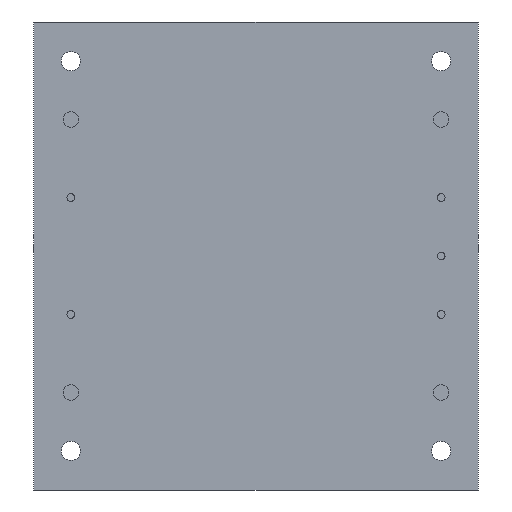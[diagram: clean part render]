
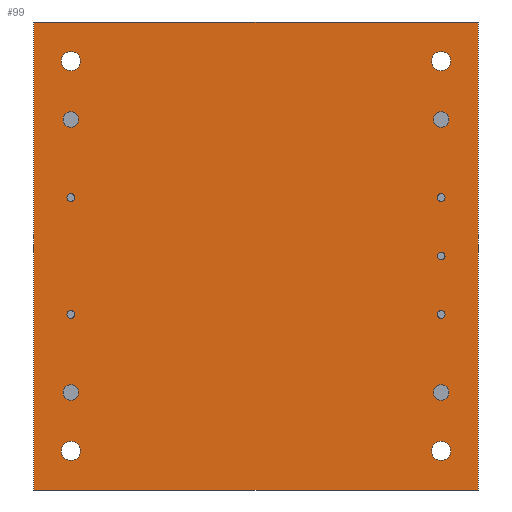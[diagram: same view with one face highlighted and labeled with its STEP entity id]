
A CAD part, front view. The second image highlights one B-rep face of the part: STEP entity #99.
In plain terms, the highlighted planar face has unit normal (0, -1, 0).
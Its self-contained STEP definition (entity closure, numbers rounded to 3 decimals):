
#72 = VERTEX_POINT('',#73);
#73 = CARTESIAN_POINT('',(-24.125,0.,-7.11));
#78 = EDGE_CURVE('',#72,#79,#81,.T.);
#79 = VERTEX_POINT('',#80);
#80 = CARTESIAN_POINT('',(-24.125,0.,-8.13));
#81 = CIRCLE('',#82,0.51);
#82 = AXIS2_PLACEMENT_3D('',#83,#84,#85);
#83 = CARTESIAN_POINT('',(-24.125,0.,-7.62));
#84 = DIRECTION('',(0.,-1.,0.));
#85 = DIRECTION('',(0.,0.,1.));
#87 = EDGE_CURVE('',#79,#72,#88,.T.);
#88 = CIRCLE('',#89,0.51);
#89 = AXIS2_PLACEMENT_3D('',#90,#91,#92);
#90 = CARTESIAN_POINT('',(-24.125,0.,-7.62));
#91 = DIRECTION('',(0.,-1.,0.));
#92 = DIRECTION('',(0.,0.,1.));
#99 = ADVANCED_FACE('',(#100,#120,#140,#160,#180,#200,#220,#240,#260,
    #294,#314,#334,#354,#358),#378,.F.);
#100 = FACE_BOUND('',#101,.T.);
#101 = EDGE_LOOP('',(#102,#113));
#102 = ORIENTED_EDGE('',*,*,#103,.F.);
#103 = EDGE_CURVE('',#104,#106,#108,.T.);
#104 = VERTEX_POINT('',#105);
#105 = CARTESIAN_POINT('',(-24.125,0.,-26.65));
#106 = VERTEX_POINT('',#107);
#107 = CARTESIAN_POINT('',(-24.125,0.,-24.15));
#108 = CIRCLE('',#109,1.25);
#109 = AXIS2_PLACEMENT_3D('',#110,#111,#112);
#110 = CARTESIAN_POINT('',(-24.125,0.,-25.4));
#111 = DIRECTION('',(0.,-1.,0.));
#112 = DIRECTION('',(0.,0.,-1.));
#113 = ORIENTED_EDGE('',*,*,#114,.F.);
#114 = EDGE_CURVE('',#106,#104,#115,.T.);
#115 = CIRCLE('',#116,1.25);
#116 = AXIS2_PLACEMENT_3D('',#117,#118,#119);
#117 = CARTESIAN_POINT('',(-24.125,0.,-25.4));
#118 = DIRECTION('',(0.,-1.,0.));
#119 = DIRECTION('',(0.,0.,-1.));
#120 = FACE_BOUND('',#121,.T.);
#121 = EDGE_LOOP('',(#122,#133));
#122 = ORIENTED_EDGE('',*,*,#123,.F.);
#123 = EDGE_CURVE('',#124,#126,#128,.T.);
#124 = VERTEX_POINT('',#125);
#125 = CARTESIAN_POINT('',(-24.125,0.,24.15));
#126 = VERTEX_POINT('',#127);
#127 = CARTESIAN_POINT('',(-24.125,0.,26.65));
#128 = CIRCLE('',#129,1.25);
#129 = AXIS2_PLACEMENT_3D('',#130,#131,#132);
#130 = CARTESIAN_POINT('',(-24.125,0.,25.4));
#131 = DIRECTION('',(0.,-1.,0.));
#132 = DIRECTION('',(0.,0.,-1.));
#133 = ORIENTED_EDGE('',*,*,#134,.F.);
#134 = EDGE_CURVE('',#126,#124,#135,.T.);
#135 = CIRCLE('',#136,1.25);
#136 = AXIS2_PLACEMENT_3D('',#137,#138,#139);
#137 = CARTESIAN_POINT('',(-24.125,0.,25.4));
#138 = DIRECTION('',(0.,-1.,0.));
#139 = DIRECTION('',(0.,0.,-1.));
#140 = FACE_BOUND('',#141,.T.);
#141 = EDGE_LOOP('',(#142,#153));
#142 = ORIENTED_EDGE('',*,*,#143,.F.);
#143 = EDGE_CURVE('',#144,#146,#148,.T.);
#144 = VERTEX_POINT('',#145);
#145 = CARTESIAN_POINT('',(24.125,0.,24.15));
#146 = VERTEX_POINT('',#147);
#147 = CARTESIAN_POINT('',(24.125,0.,26.65));
#148 = CIRCLE('',#149,1.25);
#149 = AXIS2_PLACEMENT_3D('',#150,#151,#152);
#150 = CARTESIAN_POINT('',(24.125,0.,25.4));
#151 = DIRECTION('',(0.,-1.,0.));
#152 = DIRECTION('',(0.,0.,-1.));
#153 = ORIENTED_EDGE('',*,*,#154,.F.);
#154 = EDGE_CURVE('',#146,#144,#155,.T.);
#155 = CIRCLE('',#156,1.25);
#156 = AXIS2_PLACEMENT_3D('',#157,#158,#159);
#157 = CARTESIAN_POINT('',(24.125,0.,25.4));
#158 = DIRECTION('',(0.,-1.,0.));
#159 = DIRECTION('',(0.,0.,-1.));
#160 = FACE_BOUND('',#161,.T.);
#161 = EDGE_LOOP('',(#162,#173));
#162 = ORIENTED_EDGE('',*,*,#163,.F.);
#163 = EDGE_CURVE('',#164,#166,#168,.T.);
#164 = VERTEX_POINT('',#165);
#165 = CARTESIAN_POINT('',(24.125,0.,-26.65));
#166 = VERTEX_POINT('',#167);
#167 = CARTESIAN_POINT('',(24.125,0.,-24.15));
#168 = CIRCLE('',#169,1.25);
#169 = AXIS2_PLACEMENT_3D('',#170,#171,#172);
#170 = CARTESIAN_POINT('',(24.125,0.,-25.4));
#171 = DIRECTION('',(0.,-1.,0.));
#172 = DIRECTION('',(0.,0.,-1.));
#173 = ORIENTED_EDGE('',*,*,#174,.F.);
#174 = EDGE_CURVE('',#166,#164,#175,.T.);
#175 = CIRCLE('',#176,1.25);
#176 = AXIS2_PLACEMENT_3D('',#177,#178,#179);
#177 = CARTESIAN_POINT('',(24.125,0.,-25.4));
#178 = DIRECTION('',(0.,-1.,0.));
#179 = DIRECTION('',(0.,0.,-1.));
#180 = FACE_BOUND('',#181,.T.);
#181 = EDGE_LOOP('',(#182,#193));
#182 = ORIENTED_EDGE('',*,*,#183,.F.);
#183 = EDGE_CURVE('',#184,#186,#188,.T.);
#184 = VERTEX_POINT('',#185);
#185 = CARTESIAN_POINT('',(-24.125,0.,18.795));
#186 = VERTEX_POINT('',#187);
#187 = CARTESIAN_POINT('',(-24.125,0.,16.765));
#188 = CIRCLE('',#189,1.015);
#189 = AXIS2_PLACEMENT_3D('',#190,#191,#192);
#190 = CARTESIAN_POINT('',(-24.125,0.,17.78));
#191 = DIRECTION('',(0.,-1.,0.));
#192 = DIRECTION('',(0.,0.,1.));
#193 = ORIENTED_EDGE('',*,*,#194,.F.);
#194 = EDGE_CURVE('',#186,#184,#195,.T.);
#195 = CIRCLE('',#196,1.015);
#196 = AXIS2_PLACEMENT_3D('',#197,#198,#199);
#197 = CARTESIAN_POINT('',(-24.125,0.,17.78));
#198 = DIRECTION('',(0.,-1.,0.));
#199 = DIRECTION('',(0.,0.,1.));
#200 = FACE_BOUND('',#201,.T.);
#201 = EDGE_LOOP('',(#202,#213));
#202 = ORIENTED_EDGE('',*,*,#203,.F.);
#203 = EDGE_CURVE('',#204,#206,#208,.T.);
#204 = VERTEX_POINT('',#205);
#205 = CARTESIAN_POINT('',(-24.125,0.,-16.765));
#206 = VERTEX_POINT('',#207);
#207 = CARTESIAN_POINT('',(-24.125,0.,-18.795));
#208 = CIRCLE('',#209,1.015);
#209 = AXIS2_PLACEMENT_3D('',#210,#211,#212);
#210 = CARTESIAN_POINT('',(-24.125,0.,-17.78));
#211 = DIRECTION('',(0.,-1.,0.));
#212 = DIRECTION('',(0.,0.,1.));
#213 = ORIENTED_EDGE('',*,*,#214,.F.);
#214 = EDGE_CURVE('',#206,#204,#215,.T.);
#215 = CIRCLE('',#216,1.015);
#216 = AXIS2_PLACEMENT_3D('',#217,#218,#219);
#217 = CARTESIAN_POINT('',(-24.125,0.,-17.78));
#218 = DIRECTION('',(0.,-1.,0.));
#219 = DIRECTION('',(0.,0.,1.));
#220 = FACE_BOUND('',#221,.T.);
#221 = EDGE_LOOP('',(#222,#233));
#222 = ORIENTED_EDGE('',*,*,#223,.F.);
#223 = EDGE_CURVE('',#224,#226,#228,.T.);
#224 = VERTEX_POINT('',#225);
#225 = CARTESIAN_POINT('',(24.125,0.,-7.11));
#226 = VERTEX_POINT('',#227);
#227 = CARTESIAN_POINT('',(24.125,0.,-8.13));
#228 = CIRCLE('',#229,0.51);
#229 = AXIS2_PLACEMENT_3D('',#230,#231,#232);
#230 = CARTESIAN_POINT('',(24.125,0.,-7.62));
#231 = DIRECTION('',(0.,-1.,0.));
#232 = DIRECTION('',(0.,0.,1.));
#233 = ORIENTED_EDGE('',*,*,#234,.F.);
#234 = EDGE_CURVE('',#226,#224,#235,.T.);
#235 = CIRCLE('',#236,0.51);
#236 = AXIS2_PLACEMENT_3D('',#237,#238,#239);
#237 = CARTESIAN_POINT('',(24.125,0.,-7.62));
#238 = DIRECTION('',(0.,-1.,0.));
#239 = DIRECTION('',(0.,0.,1.));
#240 = FACE_BOUND('',#241,.T.);
#241 = EDGE_LOOP('',(#242,#253));
#242 = ORIENTED_EDGE('',*,*,#243,.F.);
#243 = EDGE_CURVE('',#244,#246,#248,.T.);
#244 = VERTEX_POINT('',#245);
#245 = CARTESIAN_POINT('',(24.125,0.,8.13));
#246 = VERTEX_POINT('',#247);
#247 = CARTESIAN_POINT('',(24.125,0.,7.11));
#248 = CIRCLE('',#249,0.51);
#249 = AXIS2_PLACEMENT_3D('',#250,#251,#252);
#250 = CARTESIAN_POINT('',(24.125,0.,7.62));
#251 = DIRECTION('',(0.,-1.,0.));
#252 = DIRECTION('',(0.,0.,1.));
#253 = ORIENTED_EDGE('',*,*,#254,.F.);
#254 = EDGE_CURVE('',#246,#244,#255,.T.);
#255 = CIRCLE('',#256,0.51);
#256 = AXIS2_PLACEMENT_3D('',#257,#258,#259);
#257 = CARTESIAN_POINT('',(24.125,0.,7.62));
#258 = DIRECTION('',(0.,-1.,0.));
#259 = DIRECTION('',(0.,0.,1.));
#260 = FACE_BOUND('',#261,.T.);
#261 = EDGE_LOOP('',(#262,#272,#280,#288));
#262 = ORIENTED_EDGE('',*,*,#263,.F.);
#263 = EDGE_CURVE('',#264,#266,#268,.T.);
#264 = VERTEX_POINT('',#265);
#265 = CARTESIAN_POINT('',(-28.95,0.,-30.5));
#266 = VERTEX_POINT('',#267);
#267 = CARTESIAN_POINT('',(-28.95,0.,30.5));
#268 = LINE('',#269,#270);
#269 = CARTESIAN_POINT('',(-28.95,0.,-30.5));
#270 = VECTOR('',#271,1.);
#271 = DIRECTION('',(0.,0.,1.));
#272 = ORIENTED_EDGE('',*,*,#273,.F.);
#273 = EDGE_CURVE('',#274,#264,#276,.T.);
#274 = VERTEX_POINT('',#275);
#275 = CARTESIAN_POINT('',(28.95,0.,-30.5));
#276 = LINE('',#277,#278);
#277 = CARTESIAN_POINT('',(-28.95,0.,-30.5));
#278 = VECTOR('',#279,1.);
#279 = DIRECTION('',(-1.,-0.,-0.));
#280 = ORIENTED_EDGE('',*,*,#281,.F.);
#281 = EDGE_CURVE('',#282,#274,#284,.T.);
#282 = VERTEX_POINT('',#283);
#283 = CARTESIAN_POINT('',(28.95,0.,30.5));
#284 = LINE('',#285,#286);
#285 = CARTESIAN_POINT('',(28.95,0.,-30.5));
#286 = VECTOR('',#287,1.);
#287 = DIRECTION('',(0.,-0.,-1.));
#288 = ORIENTED_EDGE('',*,*,#289,.F.);
#289 = EDGE_CURVE('',#266,#282,#290,.T.);
#290 = LINE('',#291,#292);
#291 = CARTESIAN_POINT('',(-28.95,0.,30.5));
#292 = VECTOR('',#293,1.);
#293 = DIRECTION('',(1.,0.,0.));
#294 = FACE_BOUND('',#295,.T.);
#295 = EDGE_LOOP('',(#296,#307));
#296 = ORIENTED_EDGE('',*,*,#297,.F.);
#297 = EDGE_CURVE('',#298,#300,#302,.T.);
#298 = VERTEX_POINT('',#299);
#299 = CARTESIAN_POINT('',(24.125,0.,0.51));
#300 = VERTEX_POINT('',#301);
#301 = CARTESIAN_POINT('',(24.125,0.,-0.51));
#302 = CIRCLE('',#303,0.51);
#303 = AXIS2_PLACEMENT_3D('',#304,#305,#306);
#304 = CARTESIAN_POINT('',(24.125,0.,0.));
#305 = DIRECTION('',(0.,-1.,0.));
#306 = DIRECTION('',(0.,0.,1.));
#307 = ORIENTED_EDGE('',*,*,#308,.F.);
#308 = EDGE_CURVE('',#300,#298,#309,.T.);
#309 = CIRCLE('',#310,0.51);
#310 = AXIS2_PLACEMENT_3D('',#311,#312,#313);
#311 = CARTESIAN_POINT('',(24.125,0.,0.));
#312 = DIRECTION('',(0.,-1.,0.));
#313 = DIRECTION('',(0.,0.,1.));
#314 = FACE_BOUND('',#315,.T.);
#315 = EDGE_LOOP('',(#316,#327));
#316 = ORIENTED_EDGE('',*,*,#317,.F.);
#317 = EDGE_CURVE('',#318,#320,#322,.T.);
#318 = VERTEX_POINT('',#319);
#319 = CARTESIAN_POINT('',(24.125,0.,18.795));
#320 = VERTEX_POINT('',#321);
#321 = CARTESIAN_POINT('',(24.125,0.,16.765));
#322 = CIRCLE('',#323,1.015);
#323 = AXIS2_PLACEMENT_3D('',#324,#325,#326);
#324 = CARTESIAN_POINT('',(24.125,0.,17.78));
#325 = DIRECTION('',(0.,-1.,0.));
#326 = DIRECTION('',(0.,0.,1.));
#327 = ORIENTED_EDGE('',*,*,#328,.F.);
#328 = EDGE_CURVE('',#320,#318,#329,.T.);
#329 = CIRCLE('',#330,1.015);
#330 = AXIS2_PLACEMENT_3D('',#331,#332,#333);
#331 = CARTESIAN_POINT('',(24.125,0.,17.78));
#332 = DIRECTION('',(0.,-1.,0.));
#333 = DIRECTION('',(0.,0.,1.));
#334 = FACE_BOUND('',#335,.T.);
#335 = EDGE_LOOP('',(#336,#347));
#336 = ORIENTED_EDGE('',*,*,#337,.F.);
#337 = EDGE_CURVE('',#338,#340,#342,.T.);
#338 = VERTEX_POINT('',#339);
#339 = CARTESIAN_POINT('',(24.125,0.,-16.765));
#340 = VERTEX_POINT('',#341);
#341 = CARTESIAN_POINT('',(24.125,0.,-18.795));
#342 = CIRCLE('',#343,1.015);
#343 = AXIS2_PLACEMENT_3D('',#344,#345,#346);
#344 = CARTESIAN_POINT('',(24.125,0.,-17.78));
#345 = DIRECTION('',(0.,-1.,0.));
#346 = DIRECTION('',(0.,0.,1.));
#347 = ORIENTED_EDGE('',*,*,#348,.F.);
#348 = EDGE_CURVE('',#340,#338,#349,.T.);
#349 = CIRCLE('',#350,1.015);
#350 = AXIS2_PLACEMENT_3D('',#351,#352,#353);
#351 = CARTESIAN_POINT('',(24.125,0.,-17.78));
#352 = DIRECTION('',(0.,-1.,0.));
#353 = DIRECTION('',(0.,0.,1.));
#354 = FACE_BOUND('',#355,.T.);
#355 = EDGE_LOOP('',(#356,#357));
#356 = ORIENTED_EDGE('',*,*,#78,.F.);
#357 = ORIENTED_EDGE('',*,*,#87,.F.);
#358 = FACE_BOUND('',#359,.T.);
#359 = EDGE_LOOP('',(#360,#371));
#360 = ORIENTED_EDGE('',*,*,#361,.F.);
#361 = EDGE_CURVE('',#362,#364,#366,.T.);
#362 = VERTEX_POINT('',#363);
#363 = CARTESIAN_POINT('',(-24.125,0.,8.13));
#364 = VERTEX_POINT('',#365);
#365 = CARTESIAN_POINT('',(-24.125,0.,7.11));
#366 = CIRCLE('',#367,0.51);
#367 = AXIS2_PLACEMENT_3D('',#368,#369,#370);
#368 = CARTESIAN_POINT('',(-24.125,0.,7.62));
#369 = DIRECTION('',(0.,-1.,0.));
#370 = DIRECTION('',(0.,0.,1.));
#371 = ORIENTED_EDGE('',*,*,#372,.F.);
#372 = EDGE_CURVE('',#364,#362,#373,.T.);
#373 = CIRCLE('',#374,0.51);
#374 = AXIS2_PLACEMENT_3D('',#375,#376,#377);
#375 = CARTESIAN_POINT('',(-24.125,0.,7.62));
#376 = DIRECTION('',(0.,-1.,0.));
#377 = DIRECTION('',(0.,0.,1.));
#378 = PLANE('',#379);
#379 = AXIS2_PLACEMENT_3D('',#380,#381,#382);
#380 = CARTESIAN_POINT('',(-28.95,0.,30.5));
#381 = DIRECTION('',(0.,1.,0.));
#382 = DIRECTION('',(0.,0.,1.));
